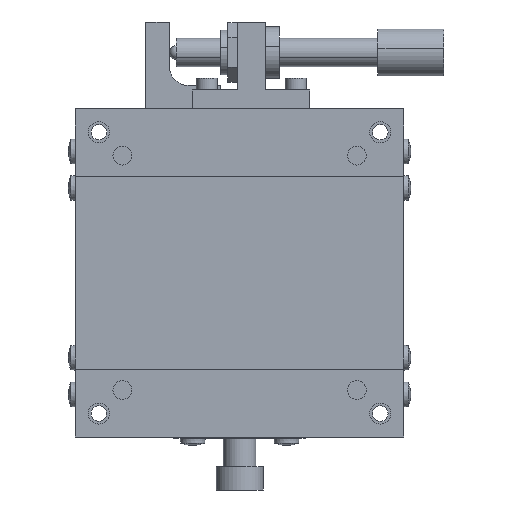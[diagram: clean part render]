
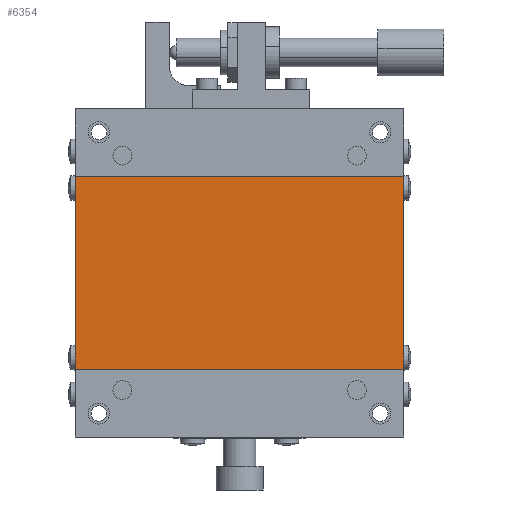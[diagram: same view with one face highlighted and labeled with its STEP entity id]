
A CAD part, front view. The second image highlights one B-rep face of the part: STEP entity #6354.
In plain terms, the highlighted planar face has unit normal (0, -1, 0).
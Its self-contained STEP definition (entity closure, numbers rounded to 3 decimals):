
#3997 = CARTESIAN_POINT ( 'NONE',  ( -35., 0.3, 20.5 ) ) ;
#3998 = DIRECTION ( 'NONE',  ( 0., 0., -1. ) ) ;
#3999 = VECTOR ( 'NONE', #3998, 1000. ) ;
#4000 = CARTESIAN_POINT ( 'NONE',  ( -35., 0.3, -20.5 ) ) ;
#4001 = LINE ( 'NONE', #4000, #3999 ) ;
#4002 = DIRECTION ( 'NONE',  ( 0., 0., 1. ) ) ;
#4003 = DIRECTION ( 'NONE',  ( 0., 1., 0. ) ) ;
#4004 = CARTESIAN_POINT ( 'NONE',  ( 35., 0.3, -20.5 ) ) ;
#4005 = AXIS2_PLACEMENT_3D ( 'NONE', #4004, #4003, #4002 ) ;
#4006 = PLANE ( 'NONE',  #4005 ) ;
#4007 = FACE_OUTER_BOUND ( 'NONE', #6355, .T. ) ;
#4008 = DIRECTION ( 'NONE',  ( -1., 0., 0. ) ) ;
#4009 = VECTOR ( 'NONE', #4008, 1000. ) ;
#4010 = CARTESIAN_POINT ( 'NONE',  ( 35., 0.3, -20.5 ) ) ;
#4011 = LINE ( 'NONE', #4010, #4009 ) ;
#4012 = CARTESIAN_POINT ( 'NONE',  ( 35., 0.3, -20.5 ) ) ;
#4066 = DIRECTION ( 'NONE',  ( -1., 0., 0. ) ) ;
#4067 = VECTOR ( 'NONE', #4066, 1000. ) ;
#4068 = CARTESIAN_POINT ( 'NONE',  ( 35., 0.3, 20.5 ) ) ;
#4069 = LINE ( 'NONE', #4068, #4067 ) ;
#4070 = CARTESIAN_POINT ( 'NONE',  ( 35., 0.3, 20.5 ) ) ;
#4071 = DIRECTION ( 'NONE',  ( 0., 0., -1. ) ) ;
#4072 = VECTOR ( 'NONE', #4071, 1000. ) ;
#4073 = CARTESIAN_POINT ( 'NONE',  ( 35., 0.3, -20.5 ) ) ;
#4074 = LINE ( 'NONE', #4073, #4072 ) ;
#4075 = CARTESIAN_POINT ( 'NONE',  ( -35., 0.3, -20.5 ) ) ;
#6333 = VERTEX_POINT ( 'NONE', #4075 ) ;
#6334 = ORIENTED_EDGE ( 'NONE', *, *, #6353, .F. ) ;
#6335 = ORIENTED_EDGE ( 'NONE', *, *, #6336, .F. ) ;
#6336 = EDGE_CURVE ( 'NONE', #6337, #6351, #4074, .T. ) ;
#6337 = VERTEX_POINT ( 'NONE', #4070 ) ;
#6338 = ORIENTED_EDGE ( 'NONE', *, *, #6339, .T. ) ;
#6339 = EDGE_CURVE ( 'NONE', #6337, #6358, #4069, .T. ) ;
#6351 = VERTEX_POINT ( 'NONE', #4012 ) ;
#6353 = EDGE_CURVE ( 'NONE', #6351, #6333, #4011, .T. ) ;
#6354 = ADVANCED_FACE ( 'NONE', ( #4007 ), #4006, .F. ) ;
#6355 = EDGE_LOOP ( 'NONE', ( #6356, #6334, #6335, #6338 ) ) ;
#6356 = ORIENTED_EDGE ( 'NONE', *, *, #6357, .T. ) ;
#6357 = EDGE_CURVE ( 'NONE', #6358, #6333, #4001, .T. ) ;
#6358 = VERTEX_POINT ( 'NONE', #3997 ) ;
